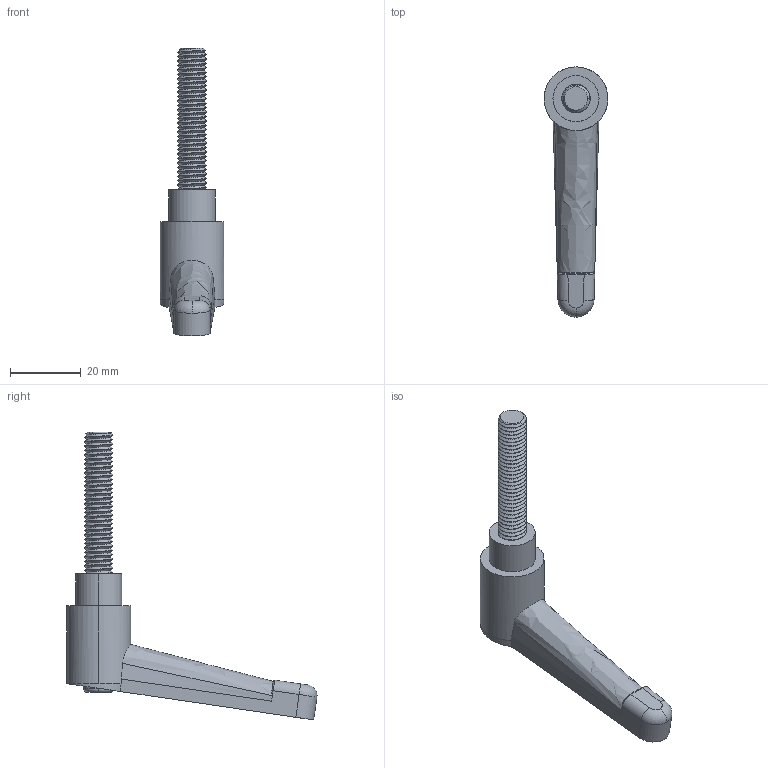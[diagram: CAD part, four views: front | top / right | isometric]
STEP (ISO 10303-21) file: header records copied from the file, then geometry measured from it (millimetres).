
FILE_DESCRIPTION (( 'STEP AP214' ), '1' );
FILE_NAME ('7140.STEP', '2015-04-16T11:07:38', ( 'user' ), ( '' ), 'SwSTEP 2.0', 'SolidWorks 2014', '' );
FILE_SCHEMA (( 'AUTOMOTIVE_DESIGN' ));
Length unit declared in the file: millimetre
Products named in the file (1): 7140
Bounding box: 18 x 70.61 x 81.24 mm (x, y, z)
Volume: 14777.5 mm3; surface area: 5707.6 mm2
Topology: 1 solids, 1 shells, 117 faces, 322 edges, 212 vertices
Faces by surface type: cylinder 77, plane 21, bspline 13, torus 4, cone 2
Entity records: 8725 total; most frequent: CARTESIAN_POINT 4935, ORIENTED_EDGE 644, DIRECTION 387, EDGE_CURVE 322, VERTEX_POINT 212, AXIS2_PLACEMENT_3D 135, EDGE_LOOP 122, UNCERTAINTY_MEASURE_WITH_UNIT 120
